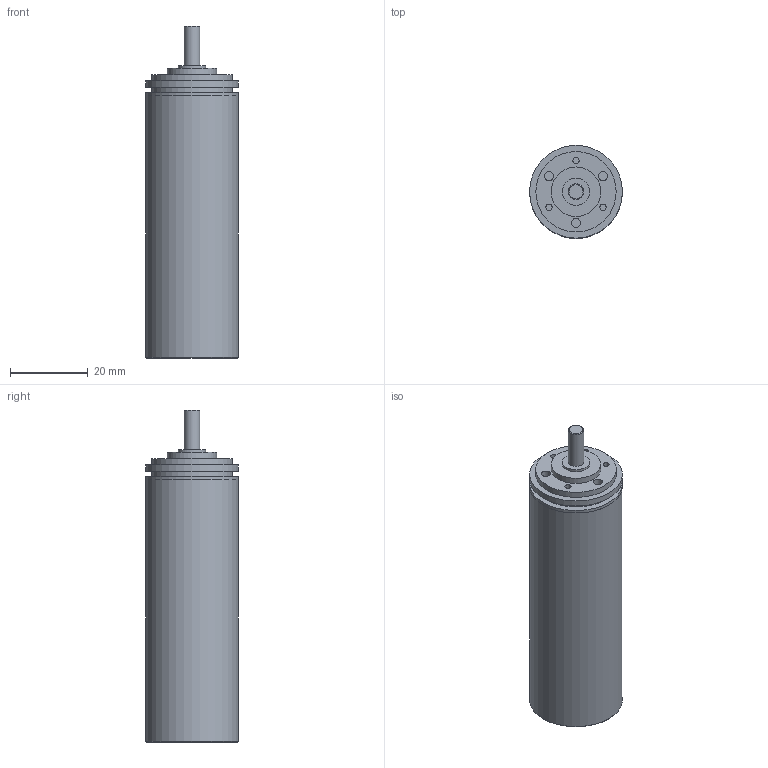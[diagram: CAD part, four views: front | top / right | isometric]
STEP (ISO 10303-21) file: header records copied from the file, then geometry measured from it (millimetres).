
FILE_DESCRIPTION(/* description */ (''),/* implementation_level */ '2;1');
FILE_NAME(/* name */ '22-2_12.stp',/* time_stamp */ '2016-08-26T11:21:45+02:00',/* author */ ('DR. FRITZ FAULHABER GmbH & Co. KG'),/* organization */ ('DR. FRITZ FAULHABER GmbH & Co. KG'),/* preprocessor_version */ 'ST-DEVELOPER v16',/* originating_system */ 'SIEMENS PLM Software NX 10.0',/* authorisation */ '');
FILE_SCHEMA (('AUTOMOTIVE_DESIGN { 1 0 10303 214 3 1 1 1 }'));
Length unit declared in the file: millimetre
Products named in the file (1): H00000868_A
Bounding box: 23.8 x 23.8 x 85.2 mm (x, y, z)
Volume: 24443.4 mm3; surface area: 8396.8 mm2
Topology: 1 solids, 1 shells, 42 faces, 65 edges, 43 vertices
Faces by surface type: plane 20, cylinder 19, cone 3
Full cylindrical faces by diameter (mm): 1.6 x3, 2.329 x3, 3.5 x1, 4 x1, 4.5 x1, 7 x2, 12.7 x1, 20.63 x2, 22 x1, 23.79 x1, 23.8 x3
Entity records: 858 total; most frequent: DIRECTION 168, CARTESIAN_POINT 125, AXIS2_PLACEMENT_3D 84, EDGE_LOOP 82, ORIENTED_EDGE 82, FACE_BOUND 74, ADVANCED_FACE 42, VERTEX_POINT 41
